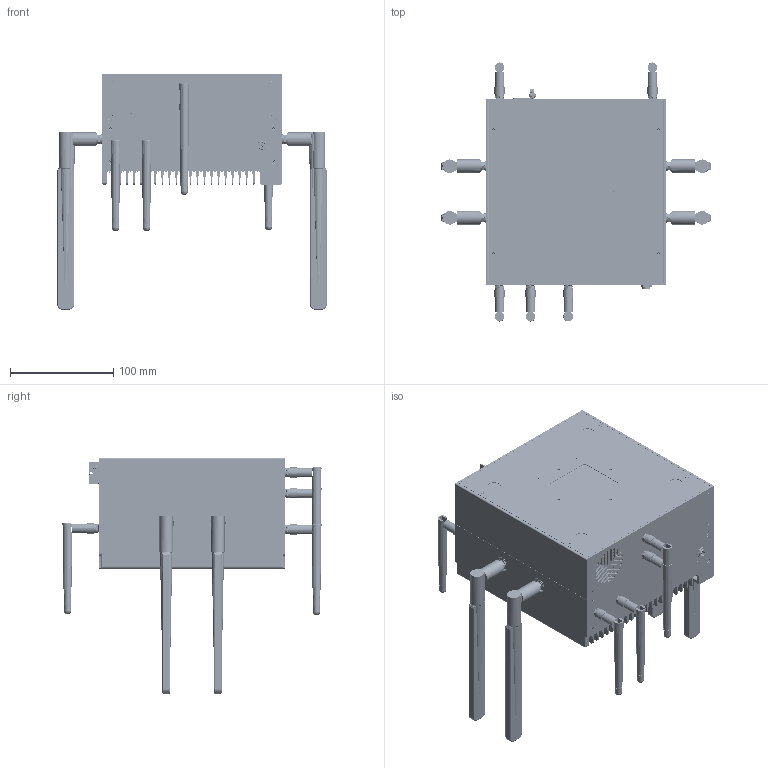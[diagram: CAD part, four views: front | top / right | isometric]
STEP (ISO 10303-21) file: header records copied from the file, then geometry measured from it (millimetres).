
FILE_DESCRIPTION((''),'2;1');
FILE_NAME('N28-D-2023-11-16_ASM','2024-08-27T',('WL'),(''),'PRO/ENGINEER BY PARAMETRIC TECHNOLOGY CORPORATION, 2010280','PRO/ENGINEER BY PARAMETRIC TECHNOLOGY CORPORATION, 2010280','');
FILE_SCHEMA(('AUTOMOTIVE_DESIGN { 1 0 10303 214 1 1 1 1 }'));
Products named in the file (144): 175X59MM-A-2023-11-16; Q-A-2023-11-16; H-A-2023-11-16; DB-2023-11-16; 2023-10-31-01C16; EC-D6-6P3X10-_B_1531C16; EC-D6-6P3X10-2_B_1531C16; EC-D6-9MM-2023-10-31C16_ASM; CPU-FAN-2023-10-31C16; DC-2P-A-2023-10-31C16; 4P-2023-2023-10-31C16; BAT-SOCKET-31C16; ____-____1-93224_31C16; BAT-2023-10-31C16_ASM; DDR3-C-_10931C16; DDR4-B-_10931C16; DDR4-9MM-2023-10-31C16_ASM; 427452782725_1531C16; M2-HDD-98__-2162230_4_1531C16; M-2-2230-H4MM-2023-10-31C16_ASM; M_2_KEY-B_H8P5-SOL14__10931C16; M2-HDD-_10931C16; M-2-2280-2023-10-31C16_ASM; M_2_KEY-B_H8P5-1-L_8__-_62B3C16; M2-5G-2023-10-31C16; M2-4G-2023-10-31C16; M-2-3052-2023-10-31C16_ASM; LAN-DG-2023-10-31C16; 2-0MM-2023-10-31C16; 2-54-DD-2023-10-31C16; 2-0-6P-2023-10-31C16; 2-0-D-2023-10-31C16; 2-0-B-2023-10-31C16; M_2_KEY-B_H8P5-1LID1_1093131C16; M2-HDD-_1093131C16; M-2-2280-PCIE-X4-2023-10-31C16_ASM; DC-2023-10-31C16; POWER-2022-7-6_BSY__31C16; MANIFOLD_SOLID_BEP963011__31C16; MANIFOLD_SOLID_BEP941011__31C16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
Assembly tree (231 placements, depth 6):
  N28-D-2023-11-16_ASM
    175X59MM-A-2023-11-16
    Q-A-2023-11-16
    H-A-2023-11-16
    DB-2023-11-16  x2
    PCB-N100-PR-ALNDZ2L-2023-11-16_ASM
      2023-10-31-01C16
      EC-D6-9MM-2023-10-31C16_ASM  x12
        EC-D6-6P3X10-_B_1531C16
        EC-D6-6P3X10-2_B_1531C16
      CPU-FAN-2023-10-31C16  x2
      DC-2P-A-2023-10-31C16
      4P-2023-2023-10-31C16
      BAT-2023-10-31C16_ASM
        BAT-SOCKET-31C16
        ____-____1-93224_31C16
      DDR4-9MM-2023-10-31C16_ASM
        DDR3-C-_10931C16
        DDR4-B-_10931C16
      M-2-2230-H4MM-2023-10-31C16_ASM
        427452782725_1531C16
        M2-HDD-98__-2162230_4_1531C16
      M-2-2280-2023-10-31C16_ASM
        M_2_KEY-B_H8P5-SOL14__10931C16
        M2-HDD-_10931C16
      M-2-3052-2023-10-31C16_ASM
        M_2_KEY-B_H8P5-1-L_8__-_62B3C16
        M2-5G-2023-10-31C16
        M2-4G-2023-10-31C16
      LAN-DG-2023-10-31C16  x2
      2-0MM-2023-10-31C16  x2
      2-54-DD-2023-10-31C16
      2-0-6P-2023-10-31C16
      2-0-D-2023-10-31C16  x2
      2-0-B-2023-10-31C16  x4
      M-2-2280-PCIE-X4-2023-10-31C16_ASM
        M_2_KEY-B_H8P5-1LID1_1093131C16
        M2-HDD-_1093131C16
      DC-2023-10-31C16
      POWER-A-2023-10-31C16_ASM
        POWER-2022-7-6_BSY__31C16
        POWER-2022-10-11__31C16_ASM
          MANIFOLD_SOLID_BEP963011__31C16
          MANIFOLD_SOLID_BEP941011__31C16
      RST-2023-10-31C16
      2XLAN-2023-10-31C16_ASM
        2XLAN-2023-10-931C16
        LAN-1-2022-10-18118720_CD931C16  x2
        LAN-LED2-2023-10-931C16_ASM  x2
          2022-9-13-021018__9_31C16
          2022-9-13-0221018__9_31C16
      LAN-USB20-2023-10-31C16_ASM
        LAN-USB-A-1_31014__B719_CD31C16
        LAN-11014_A3__213B719_CD31C16
        USB3-21014_A3__213B719_CD31C16
      HDMI-DP-2023-10-31-01C16_ASM
        HDMI-DP-2023-2-131-131C16
        HDMI-B-2023-2-131-131C16
        DP-01-_A-2023-2-131-131C16
      TYPE-C-2023-10-31C16_ASM
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Bounding box: 260.6 x 250.69 x 227.95 mm (x, y, z)
Volume: 1543223.7 mm3; surface area: 902137.6 mm2
Topology: 492 solids, 609 shells, 39684 faces, 106732 edges, 69520 vertices
Faces by surface type: plane 28137, cylinder 7112, cone 1412, bspline 1153, extrusion 906, torus 672, sphere 268, revolution 24
Entity records: 1226477 total; most frequent: CARTESIAN_POINT 197057, ORIENTED_EDGE 157121, DIRECTION 145288, PRESENTATION_STYLE_ASSIGNMENT 81820, EDGE_CURVE 78601, STYLED_ITEM 76459, CURVE_STYLE 75420, VECTOR 65224
